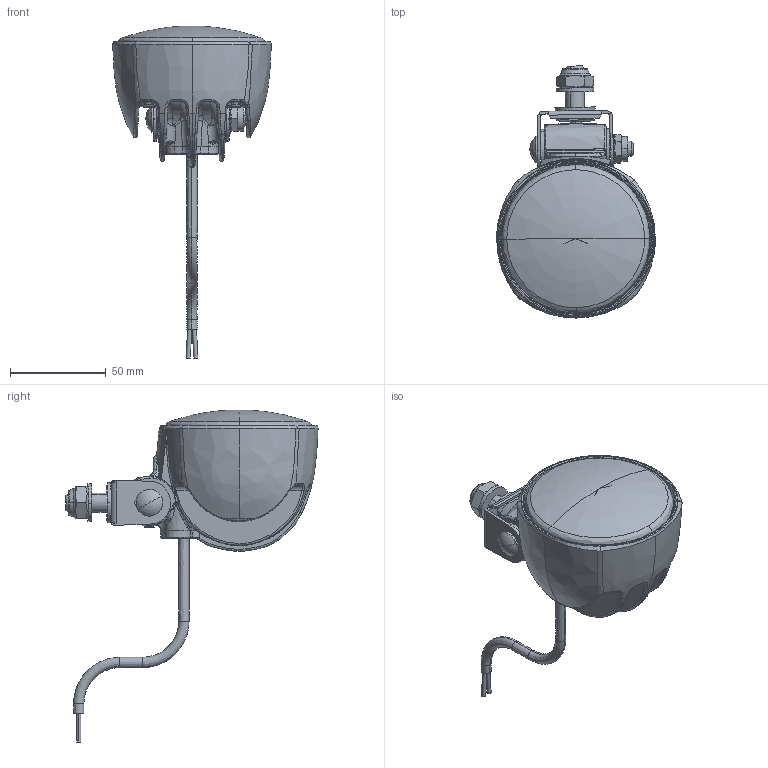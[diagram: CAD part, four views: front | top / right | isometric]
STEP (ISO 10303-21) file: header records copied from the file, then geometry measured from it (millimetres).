
FILE_DESCRIPTION(('CATIA V5 STEP Exchange','CAx-IF Rec.Pracs.--- Model Styling and Organization---1.5--- 2016-08-15','CAx-IF Rec.Pracs.---Supplemental Geometry---1.0---2011-11-01','CAx-IF Rec.Pracs.--- Composite Materials ---1.1---2010-07-15'),'2;1');
FILE_NAME('E:\tmp\ddx\2011206\HELLA_3D_data_Module_70_LED_Gen-3-2_reverse_lamp_1G0-996-576.stp','2022-01-18T07:35:21+00:00',('none'),('none'),'CATIA Version 5-6 Release 2020 SP3 HF9','CATIA V5 STEP AP214 Edition 3 v2','none');
FILE_SCHEMA(('AUTOMOTIVE_DESIGN { 1 0 10303 214 3 1 1 1 }'));
Products named in the file (1): 10002348963_D10_001
Bounding box: 83 x 131.88 x 173.6 mm (x, y, z)
Volume: 247640.2 mm3; surface area: 62770.6 mm2
Topology: 4 solids, 5 shells, 1080 faces, 2696 edges, 1600 vertices
Faces by surface type: bspline 544, plane 198, cylinder 129, cone 98, torus 85, sphere 20, extrusion 6
Entity records: 59119 total; most frequent: CARTESIAN_POINT 39341, ORIENTED_EDGE 5322, EDGE_CURVE 2661, DIRECTION 1815, B_SPLINE_CURVE_WITH_KNOTS 1664, VERTEX_POINT 1600, EDGE_LOOP 1121, ADVANCED_FACE 1080
